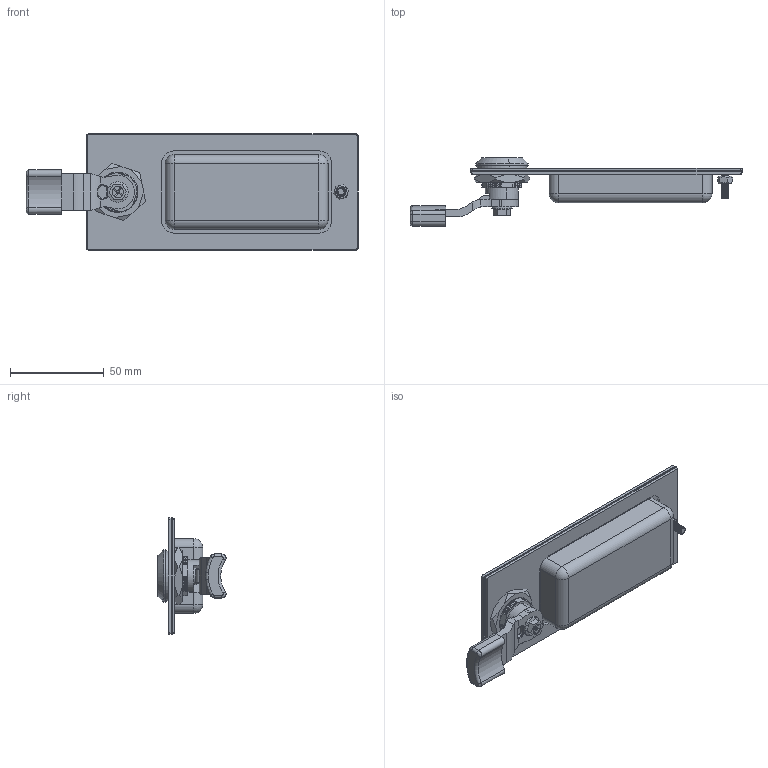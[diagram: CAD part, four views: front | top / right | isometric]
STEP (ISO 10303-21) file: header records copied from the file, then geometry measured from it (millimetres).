
FILE_DESCRIPTION (( 'STEP AP214' ), '1' );
FILE_NAME ('XG01-068.STEP', '2023-08-07T09:07:09', ( '' ), ( '' ), 'SwSTEP 2.0', 'SolidWorks 2019', '' );
FILE_SCHEMA (( 'AUTOMOTIVE_DESIGN' ));
Length unit declared in the file: millimetre
Products named in the file (7): 錨璃1; 詩邡1; 錨璃2; 外圈大螺母; XG01-068; M4蹟譫; M5芮芛蹟佪14cm
Assembly tree (6 placements, depth 2):
  XG01-068
    錨璃1
    詩邡1
    錨璃2
    M5芮芛蹟佪14cm
    M4蹟譫
    外圈大螺母
Bounding box: 177.29 x 36.34 x 62 mm (x, y, z)
Volume: 40850.8 mm3; surface area: 60136.3 mm2
Topology: 10 solids, 10 shells, 725 faces, 2011 edges, 1310 vertices
Faces by surface type: cylinder 320, bspline 198, plane 176, cone 17, sphere 8, torus 6
Entity records: 120602 total; most frequent: CARTESIAN_POINT 104093, ORIENTED_EDGE 3998, DIRECTION 2374, EDGE_CURVE 1999, VERTEX_POINT 1310, AXIS2_PLACEMENT_3D 803, VECTOR 768, LINE 768
